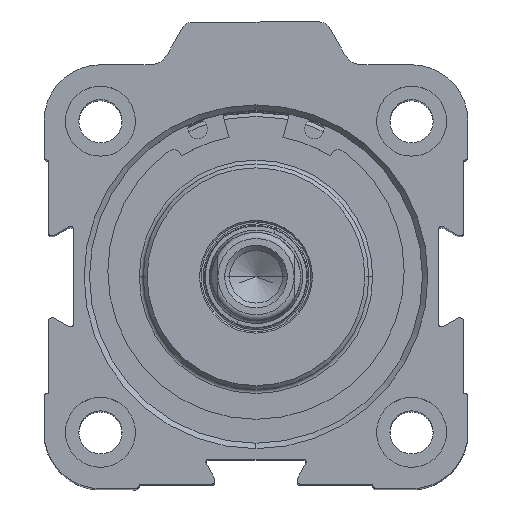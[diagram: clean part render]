
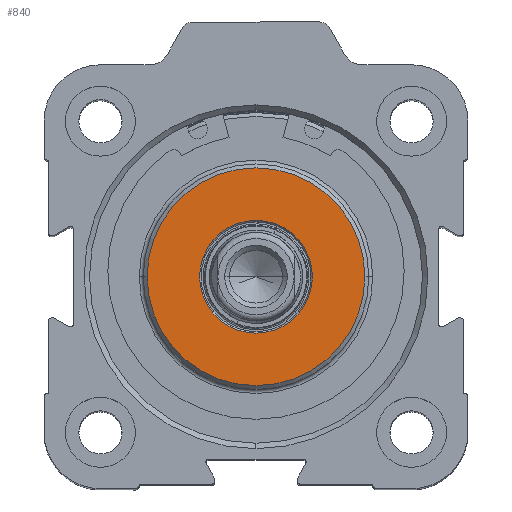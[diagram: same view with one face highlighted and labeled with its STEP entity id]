
A CAD part, top view. The second image highlights one B-rep face of the part: STEP entity #840.
In plain terms, the highlighted planar face has unit normal (0, 0, 1) as drawn and (-1, 0, 0) by its records, which use the part's own axes.
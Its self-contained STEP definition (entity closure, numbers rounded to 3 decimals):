
#57 = EDGE_LOOP ( 'NONE', ( #7701, #10525 ) ) ;
#401 = DIRECTION ( 'NONE',  ( 0., 0., -1. ) ) ;
#450 = EDGE_CURVE ( 'NONE', #9792, #10943, #4586, .T. ) ;
#840 = ADVANCED_FACE ( 'NONE', ( #8443, #8571 ), #8615, .F. ) ;
#1424 = CIRCLE ( 'NONE', #1856, 14. ) ;
#1856 = AXIS2_PLACEMENT_3D ( 'NONE', #2984, #7263, #401 ) ;
#1893 = CARTESIAN_POINT ( 'NONE',  ( 0., 0., 0. ) ) ;
#2591 = AXIS2_PLACEMENT_3D ( 'NONE', #3498, #9547, #7681 ) ;
#2754 = AXIS2_PLACEMENT_3D ( 'NONE', #9167, #3188, #9204 ) ;
#2940 = CARTESIAN_POINT ( 'NONE',  ( 0., 0., -14. ) ) ;
#2984 = CARTESIAN_POINT ( 'NONE',  ( 0., 0., 0. ) ) ;
#3188 = DIRECTION ( 'NONE',  ( -1., 0., 0. ) ) ;
#3498 = CARTESIAN_POINT ( 'NONE',  ( 0., 14.5, 0. ) ) ;
#4212 = CARTESIAN_POINT ( 'NONE',  ( 0., 0., 7.25 ) ) ;
#4480 = DIRECTION ( 'NONE',  ( 0., 0., -1. ) ) ;
#4586 = CIRCLE ( 'NONE', #7674, 7.25 ) ;
#4621 = EDGE_CURVE ( 'NONE', #10808, #10605, #1424, .T. ) ;
#5387 = DIRECTION ( 'NONE',  ( 1., 0., 0. ) ) ;
#5528 = DIRECTION ( 'NONE',  ( 0., 0., -1. ) ) ;
#5818 = CIRCLE ( 'NONE', #2754, 14. ) ;
#6375 = EDGE_CURVE ( 'NONE', #10605, #10808, #5818, .T. ) ;
#7149 = DIRECTION ( 'NONE',  ( 1., 0., 0. ) ) ;
#7263 = DIRECTION ( 'NONE',  ( -1., 0., 0. ) ) ;
#7674 = AXIS2_PLACEMENT_3D ( 'NONE', #9005, #7149, #5528 ) ;
#7681 = DIRECTION ( 'NONE',  ( 0., 0., -1. ) ) ;
#7701 = ORIENTED_EDGE ( 'NONE', *, *, #9354, .T. ) ;
#8205 = ORIENTED_EDGE ( 'NONE', *, *, #6375, .T. ) ;
#8443 = FACE_BOUND ( 'NONE', #57, .T. ) ;
#8571 = FACE_OUTER_BOUND ( 'NONE', #9366, .T. ) ;
#8615 = PLANE ( 'NONE',  #2591 ) ;
#8944 = ORIENTED_EDGE ( 'NONE', *, *, #4621, .T. ) ;
#8961 = CARTESIAN_POINT ( 'NONE',  ( 0., 0., -7.25 ) ) ;
#9005 = CARTESIAN_POINT ( 'NONE',  ( 0., 0., 0. ) ) ;
#9167 = CARTESIAN_POINT ( 'NONE',  ( 0., 0., 0. ) ) ;
#9204 = DIRECTION ( 'NONE',  ( 0., 0., -1. ) ) ;
#9280 = AXIS2_PLACEMENT_3D ( 'NONE', #1893, #5387, #4480 ) ;
#9354 = EDGE_CURVE ( 'NONE', #10943, #9792, #10108, .T. ) ;
#9366 = EDGE_LOOP ( 'NONE', ( #8205, #8944 ) ) ;
#9547 = DIRECTION ( 'NONE',  ( 1., 0., 0. ) ) ;
#9792 = VERTEX_POINT ( 'NONE', #8961 ) ;
#9839 = CARTESIAN_POINT ( 'NONE',  ( 0., 0., 14. ) ) ;
#10108 = CIRCLE ( 'NONE', #9280, 7.25 ) ;
#10525 = ORIENTED_EDGE ( 'NONE', *, *, #450, .T. ) ;
#10605 = VERTEX_POINT ( 'NONE', #2940 ) ;
#10808 = VERTEX_POINT ( 'NONE', #9839 ) ;
#10943 = VERTEX_POINT ( 'NONE', #4212 ) ;
